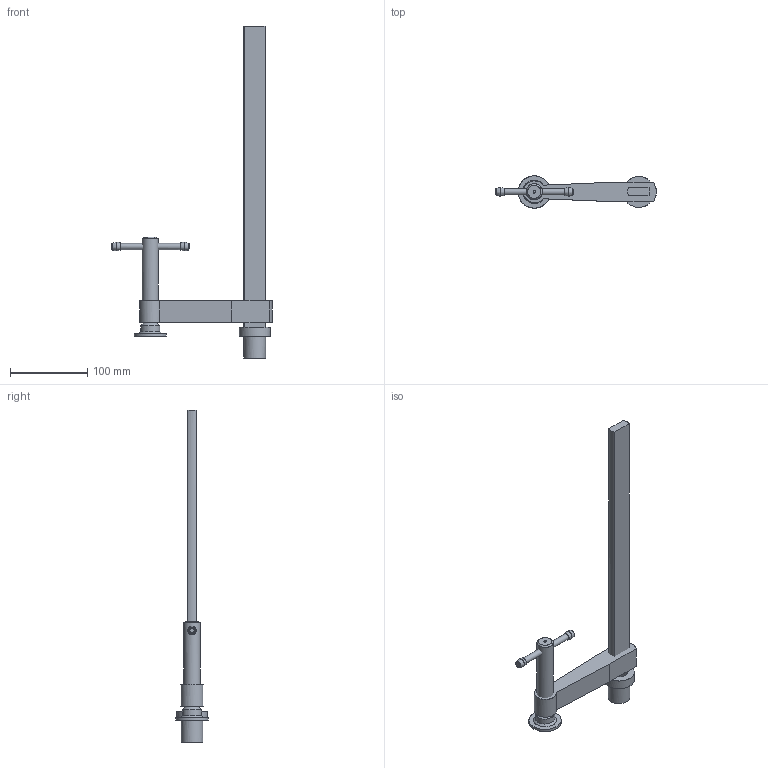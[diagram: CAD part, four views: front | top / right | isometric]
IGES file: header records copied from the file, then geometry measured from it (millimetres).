
Start section: ZWSOFT
Global section: file name: TW28-30-12K.igs; native system: ZW3D; preprocessor: 1.0; author: ZW3D; organization: ZWSOFT; date: 140317.125634; units: millimetre
Bounding box: 207.6 x 41.7 x 429 mm (x, y, z)
Surface area: 72101.6 mm2 (no closed solid volume)
Topology: 0 solids, 0 shells, 42 faces, 209 edges, 174 vertices
Faces by surface type: bspline 42
